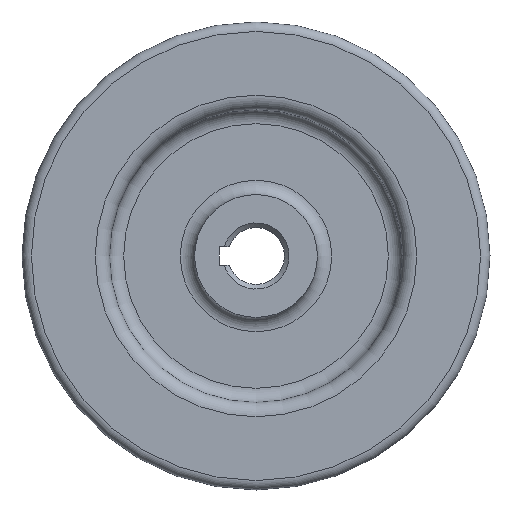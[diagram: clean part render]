
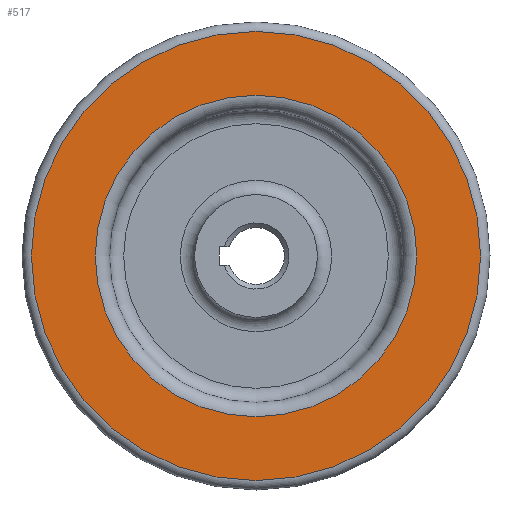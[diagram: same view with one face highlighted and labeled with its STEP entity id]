
A CAD part, left-side view. The second image highlights one B-rep face of the part: STEP entity #517.
In plain terms, the highlighted planar face has unit normal (-1, 0, 0).
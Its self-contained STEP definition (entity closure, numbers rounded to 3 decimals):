
#41=FACE_BOUND('',#150,.T.);
#58=CIRCLE('',#586,34.);
#60=CIRCLE('',#589,47.5);
#114=FACE_OUTER_BOUND('',#149,.T.);
#149=EDGE_LOOP('',(#393));
#150=EDGE_LOOP('',(#394));
#231=VERTEX_POINT('',#913);
#232=VERTEX_POINT('',#917);
#291=EDGE_CURVE('',#231,#231,#58,.T.);
#293=EDGE_CURVE('',#232,#232,#60,.T.);
#393=ORIENTED_EDGE('',*,*,#293,.F.);
#394=ORIENTED_EDGE('',*,*,#291,.T.);
#503=PLANE('',#588);
#517=ADVANCED_FACE('',(#114,#41),#503,.T.);
#586=AXIS2_PLACEMENT_3D('',#914,#714,#715);
#588=AXIS2_PLACEMENT_3D('',#916,#718,#719);
#589=AXIS2_PLACEMENT_3D('',#918,#720,#721);
#714=DIRECTION('center_axis',(1.,0.,0.));
#715=DIRECTION('ref_axis',(0.,0.,-1.));
#718=DIRECTION('center_axis',(-1.,0.,0.));
#719=DIRECTION('ref_axis',(0.,0.,1.));
#720=DIRECTION('center_axis',(1.,0.,0.));
#721=DIRECTION('ref_axis',(0.,0.,-1.));
#913=CARTESIAN_POINT('',(7.,0.,34.));
#914=CARTESIAN_POINT('Origin',(7.,0.,0.));
#916=CARTESIAN_POINT('Origin',(7.,-47.5,0.));
#917=CARTESIAN_POINT('',(7.,0.,47.5));
#918=CARTESIAN_POINT('Origin',(7.,0.,0.));
